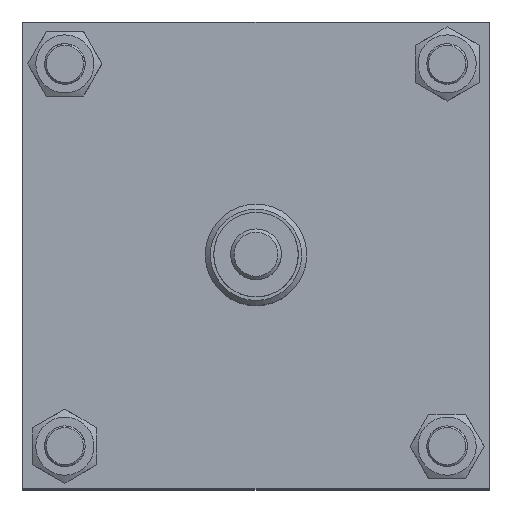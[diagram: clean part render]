
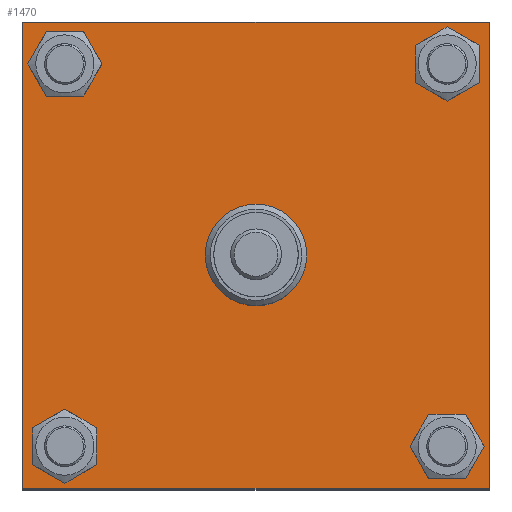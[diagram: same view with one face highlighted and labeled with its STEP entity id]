
A CAD part, top view. The second image highlights one B-rep face of the part: STEP entity #1470.
In plain terms, the highlighted planar face has unit normal (0, 0, 1).
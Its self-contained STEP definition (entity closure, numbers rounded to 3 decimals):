
#687=CARTESIAN_POINT('',(0.,15.,296.));
#688=VERTEX_POINT('',#687);
#689=CARTESIAN_POINT('',(0.,0.,296.));
#690=DIRECTION('',(0.0,0.0,-1.0));
#691=DIRECTION('',(0.0,1.0,0.0));
#692=AXIS2_PLACEMENT_3D('',#689,#690,#691);
#693=CIRCLE('',#692,15.);
#694=EDGE_CURVE('',#688,#688,#693,.T.);
#1278=CARTESIAN_POINT('',(-64.016,-52.269,296.));
#1279=VERTEX_POINT('',#1278);
#1280=CARTESIAN_POINT('',(-56.569,-56.569,296.));
#1281=DIRECTION('',(0.,0.,-1.0));
#1282=DIRECTION('',(-0.866,0.5,0.));
#1283=AXIS2_PLACEMENT_3D('',#1280,#1281,#1282);
#1284=CIRCLE('',#1283,8.6);
#1285=EDGE_CURVE('',#1279,#1279,#1284,.T.);
#1392=CARTESIAN_POINT('',(0.,0.,296.));
#1393=DIRECTION('',(0.0,0.0,1.0));
#1394=DIRECTION('',(1.0,0.0,0.0));
#1395=AXIS2_PLACEMENT_3D('',#1392,#1393,#1394);
#1396=PLANE('',#1395);
#1397=CARTESIAN_POINT('',(69.,69.,296.));
#1398=VERTEX_POINT('',#1397);
#1399=CARTESIAN_POINT('',(69.,-69.0,296.));
#1400=VERTEX_POINT('',#1399);
#1401=CARTESIAN_POINT('',(69.,69.,296.));
#1402=DIRECTION('',(0.0,-1.0,0.0));
#1403=VECTOR('',#1402,138.0);
#1404=LINE('',#1401,#1403);
#1405=EDGE_CURVE('',#1398,#1400,#1404,.T.);
#1406=ORIENTED_EDGE('',*,*,#1405,.F.);
#1407=CARTESIAN_POINT('',(-69.0,69.,296.));
#1408=VERTEX_POINT('',#1407);
#1409=CARTESIAN_POINT('',(-69.0,69.,296.));
#1410=DIRECTION('',(1.0,0.0,0.0));
#1411=VECTOR('',#1410,138.0);
#1412=LINE('',#1409,#1411);
#1413=EDGE_CURVE('',#1408,#1398,#1412,.T.);
#1414=ORIENTED_EDGE('',*,*,#1413,.F.);
#1415=CARTESIAN_POINT('',(-69.,-69.,296.));
#1416=VERTEX_POINT('',#1415);
#1417=CARTESIAN_POINT('',(-69.,-69.,296.));
#1418=DIRECTION('',(0.0,1.0,0.0));
#1419=VECTOR('',#1418,138.0);
#1420=LINE('',#1417,#1419);
#1421=EDGE_CURVE('',#1416,#1408,#1420,.T.);
#1422=ORIENTED_EDGE('',*,*,#1421,.F.);
#1423=CARTESIAN_POINT('',(69.,-69.0,296.));
#1424=DIRECTION('',(-1.0,0.0,0.0));
#1425=VECTOR('',#1424,138.);
#1426=LINE('',#1423,#1425);
#1427=EDGE_CURVE('',#1400,#1416,#1426,.T.);
#1428=ORIENTED_EDGE('',*,*,#1427,.F.);
#1429=EDGE_LOOP('',(#1406,#1414,#1422,#1428));
#1430=FACE_OUTER_BOUND('',#1429,.T.);
#1431=ORIENTED_EDGE('',*,*,#694,.T.);
#1432=EDGE_LOOP('',(#1431));
#1433=FACE_BOUND('',#1432,.T.);
#1434=CARTESIAN_POINT('',(52.269,-64.016,296.));
#1435=VERTEX_POINT('',#1434);
#1436=CARTESIAN_POINT('',(56.569,-56.569,296.));
#1437=DIRECTION('',(0.,0.,-1.));
#1438=DIRECTION('',(-0.5,-0.866,0.));
#1439=AXIS2_PLACEMENT_3D('',#1436,#1437,#1438);
#1440=CIRCLE('',#1439,8.6);
#1441=EDGE_CURVE('',#1435,#1435,#1440,.T.);
#1442=ORIENTED_EDGE('',*,*,#1441,.T.);
#1443=EDGE_LOOP('',(#1442));
#1444=FACE_BOUND('',#1443,.T.);
#1445=CARTESIAN_POINT('',(-52.269,64.016,296.));
#1446=VERTEX_POINT('',#1445);
#1447=CARTESIAN_POINT('',(-56.569,56.569,296.));
#1448=DIRECTION('',(0.,0.,-1.0));
#1449=DIRECTION('',(0.5,0.866,0.));
#1450=AXIS2_PLACEMENT_3D('',#1447,#1448,#1449);
#1451=CIRCLE('',#1450,8.6);
#1452=EDGE_CURVE('',#1446,#1446,#1451,.T.);
#1453=ORIENTED_EDGE('',*,*,#1452,.T.);
#1454=EDGE_LOOP('',(#1453));
#1455=FACE_BOUND('',#1454,.T.);
#1456=CARTESIAN_POINT('',(64.016,52.269,296.));
#1457=VERTEX_POINT('',#1456);
#1458=CARTESIAN_POINT('',(56.569,56.569,296.));
#1459=DIRECTION('',(0.,0.,-1.));
#1460=DIRECTION('',(0.866,-0.5,0.));
#1461=AXIS2_PLACEMENT_3D('',#1458,#1459,#1460);
#1462=CIRCLE('',#1461,8.6);
#1463=EDGE_CURVE('',#1457,#1457,#1462,.T.);
#1464=ORIENTED_EDGE('',*,*,#1463,.T.);
#1465=EDGE_LOOP('',(#1464));
#1466=FACE_BOUND('',#1465,.T.);
#1467=ORIENTED_EDGE('',*,*,#1285,.T.);
#1468=EDGE_LOOP('',(#1467));
#1469=FACE_BOUND('',#1468,.T.);
#1470=ADVANCED_FACE('',(#1430,#1433,#1444,#1455,#1466,#1469),#1396,.T.);
